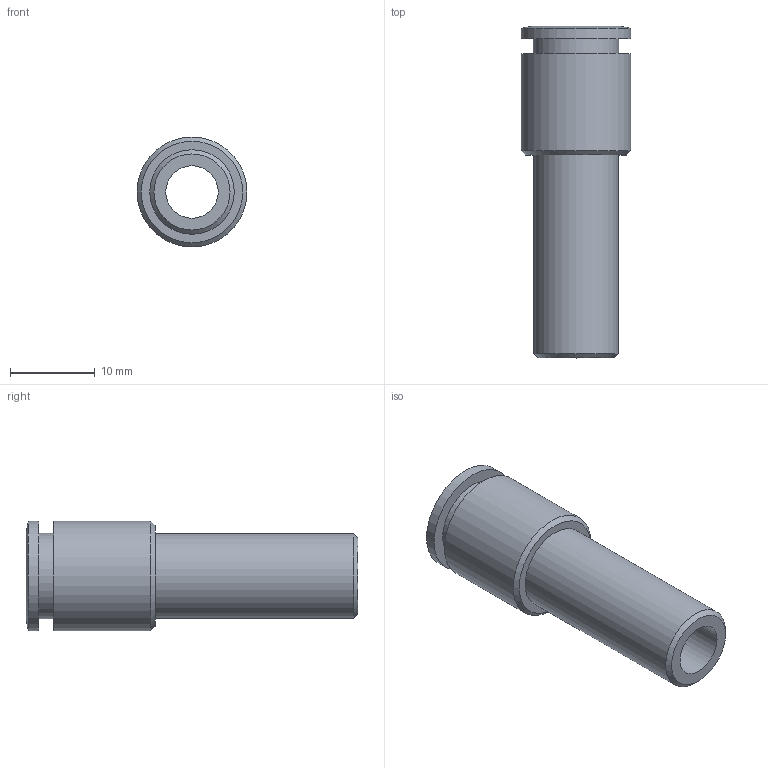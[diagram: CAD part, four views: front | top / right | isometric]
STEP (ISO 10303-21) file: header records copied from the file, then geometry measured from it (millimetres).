
FILE_DESCRIPTION((''),'2;1');
FILE_NAME('C:\Documents and Settings\rivolro1\Documenti\copia di Raccordi\PLASTICA\T08XXXX\T081008.stp','2007-10-30T17:05:12',('Rivolro1'),(''),'Autodesk Inventor 2008','Autodesk Inventor 2008','');
FILE_SCHEMA(('AUTOMOTIVE_DESIGN { 1 0 10303 214 1 1 1 1 }'));
Length unit declared in the file: millimetre
Products named in the file (1): T081008
Bounding box: 13 x 39.25 x 13 mm (x, y, z)
Volume: 2192.1 mm3; surface area: 2521.9 mm2
Topology: 1 solids, 1 shells, 15 faces, 24 edges, 15 vertices
Faces by surface type: plane 5, cylinder 5, cone 3, bspline 2
Full cylindrical faces by diameter (mm): 6.2 x1, 10 x1, 10.1 x1, 13 x2
Entity records: 363 total; most frequent: CARTESIAN_POINT 66, DIRECTION 58, ORIENTED_EDGE 30, EDGE_LOOP 30, AXIS2_PLACEMENT_3D 29, VERTEX_POINT 15, CIRCLE 15, EDGE_CURVE 15
